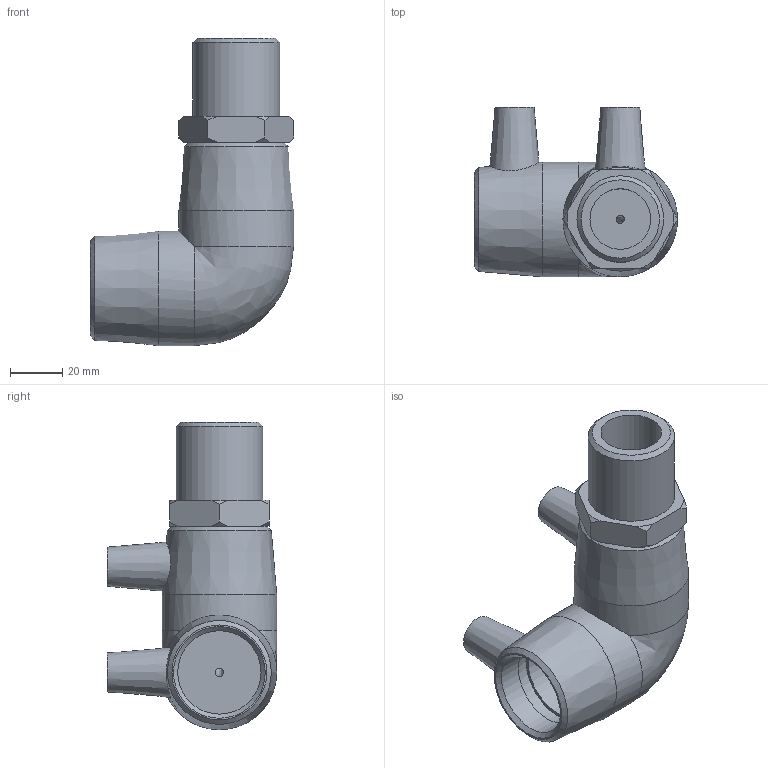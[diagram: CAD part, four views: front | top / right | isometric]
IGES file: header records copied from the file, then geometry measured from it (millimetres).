
Global section: file name: 497504032010.ipt; native system: Autodesk Inventor 2015; preprocessor: unknown; author: KIM; date: 20190421.151315; units: millimetre
Bounding box: 78 x 65 x 118 mm (x, y, z)
Volume: 148214.6 mm3; surface area: 41343.1 mm2
Topology: 2 solids, 2 shells, 60 faces, 146 edges, 98 vertices
Faces by surface type: plane 22, cone 19, revolution 12, cylinder 6, bspline 1
Full cylindrical faces by diameter (mm): 4 x2, 32 x1, 33.249 x1, 44 x2
